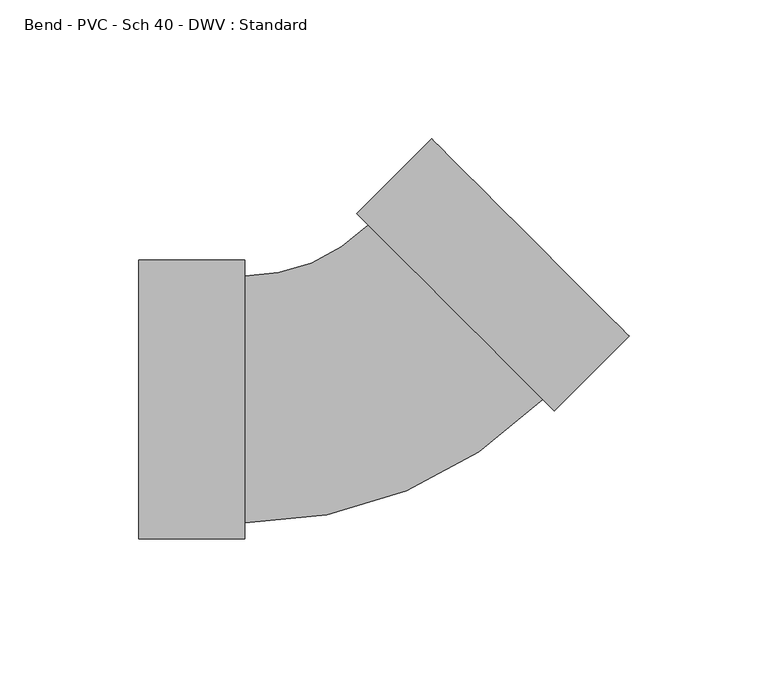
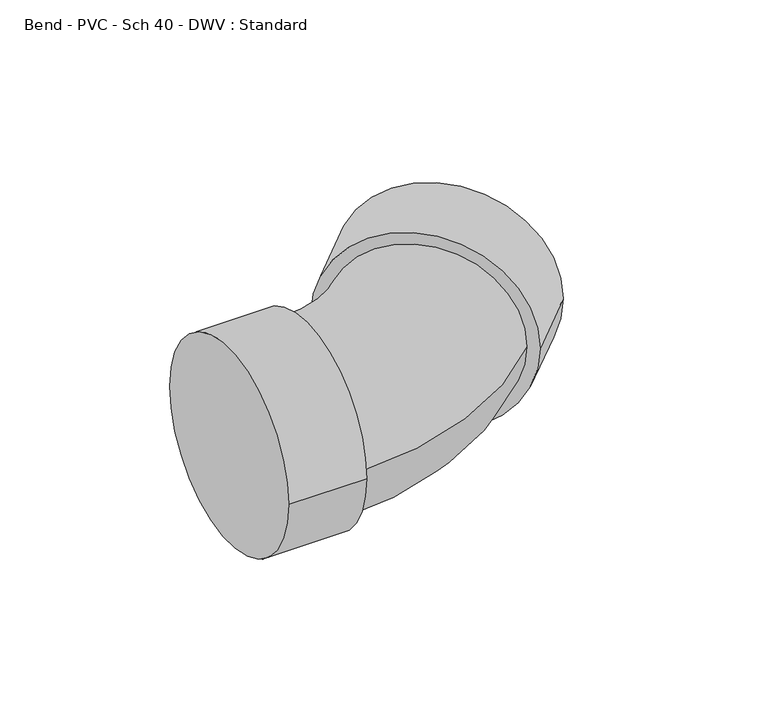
"""IFC4 building model written with IfcOpenShell, lengths in millimetres: pipe fitting geometry, Bend - PVC - Sch 40 - DWV : Standard."""

from ifc_helpers import new_model, si_unit, point, frame, origin, place, context, project, spatial, circle_curve, ellipse_curve, trimmed, source, transform, mapped, element, save
from ifc_brep_helpers import plane_surface, cylinder_surface, revolved_surface, advanced_brep


def bend_pvc_sch_40_dwv_standard_0afe4493(model_context):
    return source(origin(), model_context, "Body", "AdvancedBrep", [
        advanced_brep(
        [(-82.55, -50.2666, 0.0), (-82.55, 50.2666, 0.0), (-44.45, -50.2666, 0.0), (-44.45, 50.2666, 0.0), (-44.45, -44.45, 0.0), (-44.45, 44.45, 0.0), (0.0027974, 62.8617928, 0.0), (62.8617928, -0.0027974, 0.0), (66.9745671, -4.1159378, 0.0), (-4.1099768, 66.9749331, 0.0), (93.9165343, 22.8236317, 0.0), (22.8319904, 93.9145025, 0.0)],
        [
            (0, 1, circle_curve(frame((-82.55, 0.0, 0.0), z_axis=(-1.0, 0.0, 0.0), x_axis=(0.0, 1.0, 0.0)), 50.2666)),
            (1, 0, circle_curve(frame((-82.55, 0.0, 0.0), z_axis=(-1.0, 0.0, 0.0), x_axis=(0.0, 1.0, 0.0)), 50.2666)),
            (2, 3, circle_curve(frame((-44.45, 0.0, 0.0), z_axis=(1.0, 0.0, 0.0), x_axis=(0.0, 1.0, 0.0)), 50.2666)),
            (3, 2, circle_curve(frame((-44.45, 0.0, 0.0), z_axis=(1.0, 0.0, 0.0), x_axis=(0.0, 1.0, 0.0)), 50.2666)),
            (4, 5, circle_curve(frame((-44.45, 0.0, 0.0), z_axis=(-1.0, 0.0, 0.0), x_axis=(0.0, 1.0, 0.0)), 44.45)),
            (5, 4, circle_curve(frame((-44.45, 0.0, 0.0), z_axis=(-1.0, 0.0, 0.0), x_axis=(0.0, 1.0, 0.0)), 44.45)),
            (0, 2),
            (3, 1),
            (6, 5, circle_curve(frame((-44.45, 107.3185468, 0.0), z_axis=(0.0, 0.0, -1.0), x_axis=(0.0, -1.0, 0.0)), 62.8685468)),
            (4, 7, circle_curve(frame((-44.45, 107.3185468, 0.0), z_axis=(0.0, 0.0, 1.0), x_axis=(0.0, -1.0, 0.0)), 151.7685468)),
            (7, 6, circle_curve(frame((31.4322951, 31.4294977, 0.0), z_axis=(-0.7071382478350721, -0.7070753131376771, 0.0), x_axis=(-0.7070753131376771, 0.7071382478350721, 0.0)), 44.45)),
            (6, 7, circle_curve(frame((31.4322951, 31.4294977, 0.0), z_axis=(-0.7071382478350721, -0.7070753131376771, 0.0), x_axis=(-0.7070753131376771, 0.7071382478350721, 0.0)), 44.45)),
            (8, 9, circle_curve(frame((31.4322951, 31.4294977, 0.0), z_axis=(-0.7071382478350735, -0.7070753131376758, 0.0), x_axis=(-0.7070753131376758, 0.7071382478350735, 0.0)), 50.2666)),
            (9, 8, circle_curve(frame((31.4322951, 31.4294977, 0.0), z_axis=(-0.7071382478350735, -0.7070753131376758, 0.0), x_axis=(-0.7070753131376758, 0.7071382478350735, 0.0)), 50.2666)),
            (10, 11, circle_curve(frame((58.3742624, 58.3690671, 0.0), z_axis=(0.7071382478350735, 0.7070753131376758, 0.0), x_axis=(-0.7070753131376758, 0.7071382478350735, 0.0)), 50.2666)),
            (11, 10, circle_curve(frame((58.3742624, 58.3690671, 0.0), z_axis=(0.7071382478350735, 0.7070753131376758, 0.0), x_axis=(-0.7070753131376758, 0.7071382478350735, 0.0)), 50.2666)),
            (8, 10),
            (11, 9),
        ],
        [
            plane_surface(frame((-82.55, 0.0, 0.0), z_axis=(-1.0, 0.0, 0.0), x_axis=(0.0, 0.0, 1.0))),
            plane_surface(frame((-44.45, 0.0, 0.0), z_axis=(1.0, 0.0, 0.0), x_axis=(0.0, 0.0, 1.0))),
            cylinder_surface(frame((-82.55, 0.0, 0.0), z_axis=(-1.0, 0.0, 0.0), x_axis=(0.0, 1.0, 0.0)), 50.2666),
            revolved_surface(trimmed(ellipse_curve(frame((-44.45, 0.0, 0.0), z_axis=(-1.0, 0.0, 0.0), x_axis=(0.0, 1.0, 0.0)), 44.45, 44.45), [point((-44.45, -44.45, 0.0))], [point((-44.45, 44.45, 0.0))], True, "CARTESIAN"), (-44.45, 107.3185468, 0.0), (0.0, 0.0, 1.0)),
            revolved_surface(trimmed(ellipse_curve(frame((-44.45, 0.0, 0.0), z_axis=(-1.0, 0.0, 0.0), x_axis=(0.0, 1.0, 0.0)), 44.45, 44.45), [point((-44.45, 44.45, 0.0))], [point((-44.45, -44.45, 0.0))], True, "CARTESIAN"), (-44.45, 107.3185468, 0.0), (0.0, 0.0, 1.0)),
            plane_surface(frame((31.4322951, 31.4294977, 0.0), z_axis=(-0.7071382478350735, -0.7070753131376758, 0.0), x_axis=(0.0, 0.0, 1.0))),
            plane_surface(frame((58.3742624, 58.3690671, 0.0), z_axis=(0.7071382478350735, 0.7070753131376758, 0.0), x_axis=(0.0, 0.0, 1.0))),
            cylinder_surface(frame((31.4322951, 31.4294977, 0.0), z_axis=(-0.7071382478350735, -0.7070753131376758, 0.0), x_axis=(-0.7070753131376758, 0.7071382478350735, 0.0)), 50.2666),
        ],
        [
            (0, [[1, 2]]),
            (1, [[3, 4], [5, 6]]),
            (2, [[-1, 7, -4, 8]]),
            (2, [[-2, -8, -3, -7]]),
            (3, [[9, -5, 10, 11]]),
            (4, [[-9, 12, -10, -6]]),
            (5, [[13, 14], [-11, -12]]),
            (6, [[15, 16]]),
            (7, [[-13, 17, -16, 18]]),
            (7, [[-14, -18, -15, -17]]),
        ],
    ),
    ])


if __name__ == "__main__":
    model = new_model("IFC4")
    model_context = context("Model", 3, world=origin())
    ifc_project = project(units=[si_unit("LENGTHUNIT", "METRE", prefix="MILLI")], contexts=[model_context])
    site = spatial("IfcSite", under=ifc_project)
    building = spatial("IfcBuilding", under=site)
    placement = place(None, origin())
    bend_pvc_sch_40_dwv_standard_shape = bend_pvc_sch_40_dwv_standard_0afe4493(model_context)
    element("IfcPipeFitting", 1, ObjectType="Bend - PVC - Sch 40 - DWV : Standard", at=placement, inside=building, context=model_context, shape_type="MappedRepresentation", body=[
        mapped(bend_pvc_sch_40_dwv_standard_shape, transform((0.0, 0.0, 0.0), x_axis=(1.0, 0.0, 0.0), y_axis=(0.0, 1.0, 0.0), z_axis=(0.0, 0.0, 1.0))),
    ])
    save(model, "model.ifc")
